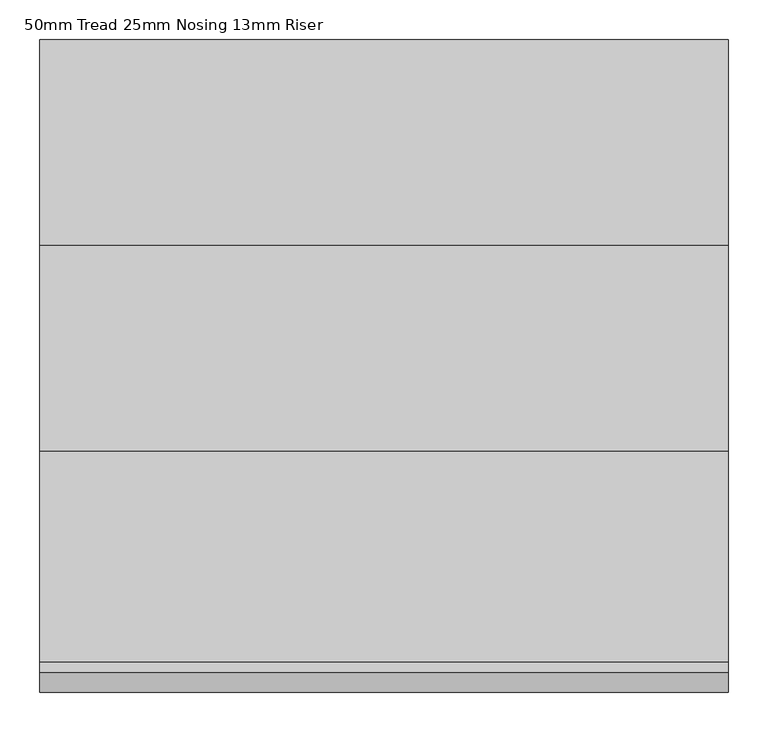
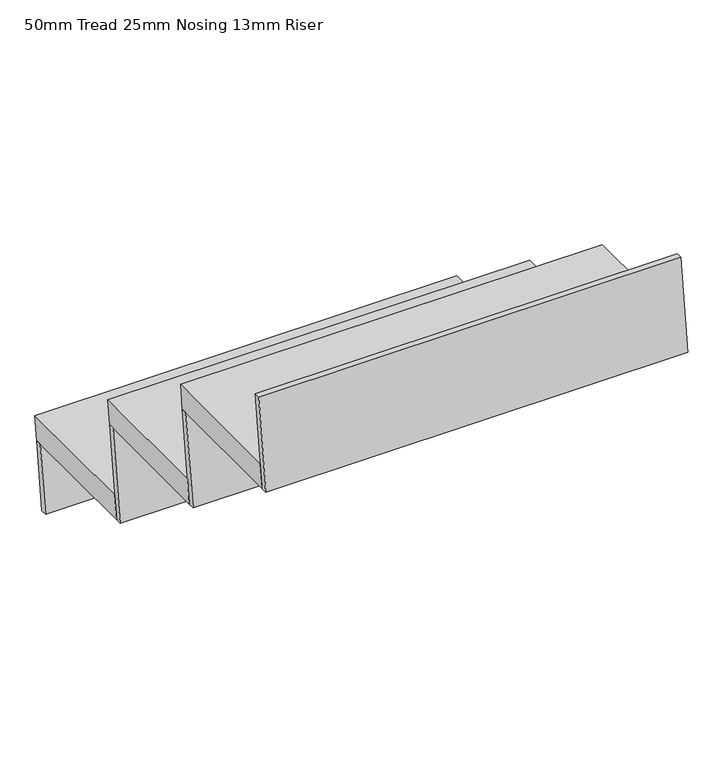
"""IFC4 building model written with IfcOpenShell, lengths in millimetres: stair flight geometry, 50mm Tread 25mm Nosing 13mm Riser."""

import ifcopenshell
import ifcopenshell.guid

model = None  # the IFC model being written
_history = None  # IfcOwnerHistory: only IFC2X3 demands one
_inside = {}  # id of a spatial element -> (the spatial element, [elements in it])
_under = {}  # id of a project, library or spatial element -> (it, [spatial elements below it])
_declared = {}  # id of a project -> (the project, [libraries it declares])
_typed = {}  # id of a type object -> (the type object, [elements of that type])
_made_of = {}  # id of a material, layer set ... -> (it, [elements and type objects made of it])


def new_model(schema):
    """Start an empty IFC model of exactly this schema.

    Asked for "IFC4X3", IfcOpenShell would pick the latest addendum, in which some entities
    have other attributes; the version numbers below select the first issue.
    IFC2X3 requires an IfcOwnerHistory on every rooted entity: one is made here for all.
    """
    global model, _history
    if schema == "IFC4X3":
        model = ifcopenshell.file(schema_version=(4, 3, 0, 0))
    else:
        model = ifcopenshell.file(schema=schema)
    _inside.clear()
    _under.clear()
    _declared.clear()
    _typed.clear()
    _made_of.clear()
    _history = None
    if model.schema == "IFC2X3":
        org = make("IfcOrganization", Name="unknown")
        user = make(
            "IfcPersonAndOrganization",
            ThePerson=make("IfcPerson", FamilyName="unknown"),
            TheOrganization=org,
        )
        app = make(
            "IfcApplication",
            ApplicationDeveloper=org,
            Version="unknown",
            ApplicationFullName="unknown",
            ApplicationIdentifier="unknown",
        )
        _history = make(
            "IfcOwnerHistory",
            OwningUser=user,
            OwningApplication=app,
            ChangeAction="ADDED",
            CreationDate=0,
        )
    return model


def make(cls, **values):
    """One entity of the class cls with the attributes given. An attribute that is None is left unset."""
    return model.create_entity(
        cls, **{name: value for name, value in values.items() if value is not None}
    )


def rooted(cls, **values):
    """An entity with a GlobalId (a new one), such as an element, a storey or a relation."""
    return make(cls, GlobalId=ifcopenshell.guid.new(), OwnerHistory=_history, **values)


def si_unit(unit_type, name, prefix=None):
    """IfcSIUnit, for example si_unit("LENGTHUNIT", "METRE", prefix="MILLI")."""
    return make("IfcSIUnit", UnitType=unit_type, Prefix=prefix, Name=name)


def assignment(units):
    """IfcUnitAssignment: the units of a project."""
    return None if units is None else make("IfcUnitAssignment", Units=units)


def point(xyz):
    """IfcCartesianPoint."""
    return None if xyz is None else make("IfcCartesianPoint", Coordinates=xyz)


def direction(xyz):
    """IfcDirection."""
    return None if xyz is None else make("IfcDirection", DirectionRatios=xyz)


def frame(location, z_axis=None, x_axis=None):
    """IfcAxis2Placement3D, a coordinate frame: its origin and axes. An axis left out is left unset."""
    return make(
        "IfcAxis2Placement3D",
        Location=point(location),
        Axis=direction(z_axis),
        RefDirection=direction(x_axis),
    )


def origin():
    """The frame at (0, 0, 0) with its axes left unset."""
    return frame((0.0, 0.0, 0.0))


def place(relative_to, where):
    """IfcLocalPlacement: puts the frame where relative to a parent placement (None: the world)."""
    return make(
        "IfcLocalPlacement", PlacementRelTo=relative_to, RelativePlacement=where
    )


def context(
    kind, dimensions, precision=None, world=None, true_north=None, identifier=None
):
    """IfcGeometricRepresentationContext, for example the 3D "Model" context."""
    return make(
        "IfcGeometricRepresentationContext",
        ContextIdentifier=identifier,
        ContextType=kind,
        CoordinateSpaceDimension=dimensions,
        Precision=precision,
        WorldCoordinateSystem=world,
        TrueNorth=true_north,
    )


def project(units=None, contexts=None):
    """IfcProject with its units and contexts."""
    return rooted(
        "IfcProject",
        Name="project",
        RepresentationContexts=contexts,
        UnitsInContext=assignment(units),
    )


def spatial(cls, under=None, at=None, **own):
    """A site, building, storey or space (cls), placed at a placement, below another one or the project."""
    s = rooted(cls, ObjectPlacement=at, **own)
    if under is not None:
        _under.setdefault(under.id(), (under, []))[1].append(s)
    return s


def polyline(points):
    """IfcPolyline through the points."""
    return make("IfcPolyline", Points=[point(p) for p in points])


def outline(outer, holes=None, kind="AREA"):
    """IfcArbitraryClosedProfileDef: a profile drawn as a closed curve; with holes, ...WithVoids."""
    if holes is None:
        return make("IfcArbitraryClosedProfileDef", ProfileType=kind, OuterCurve=outer)
    return make(
        "IfcArbitraryProfileDefWithVoids",
        ProfileType=kind,
        OuterCurve=outer,
        InnerCurves=holes,
    )


def extrude(swept, where, along, depth):
    """IfcExtrudedAreaSolid: the profile swept, set in the frame where, extruded along a direction by depth."""
    return make(
        "IfcExtrudedAreaSolid",
        SweptArea=swept,
        Position=where,
        ExtrudedDirection=direction(along),
        Depth=depth,
    )


def shape(context_of_items, identifier, shape_type, items):
    """IfcShapeRepresentation: the items that make up one representation, for example the "Body"."""
    return make(
        "IfcShapeRepresentation",
        ContextOfItems=context_of_items,
        RepresentationIdentifier=identifier,
        RepresentationType=shape_type,
        Items=items,
    )


def source(mapping_origin, context_of_items, identifier, shape_type, items):
    """IfcRepresentationMap: a shape defined once, which mapped items show again and again."""
    return make(
        "IfcRepresentationMap",
        MappingOrigin=mapping_origin,
        MappedRepresentation=shape(context_of_items, identifier, shape_type, items),
    )


def transform(
    local_origin,
    x_axis=None,
    y_axis=None,
    z_axis=None,
    scale=None,
    scale2=None,
    scale3=None,
    uniform=True,
):
    """IfcCartesianTransformationOperator3D, or its non-uniform kind. x_axis, y_axis, z_axis: its Axis1, 2, 3."""
    if uniform:
        return make(
            "IfcCartesianTransformationOperator3D",
            Axis1=direction(x_axis),
            Axis2=direction(y_axis),
            LocalOrigin=point(local_origin),
            Scale=scale,
            Axis3=direction(z_axis),
        )
    return make(
        "IfcCartesianTransformationOperator3DnonUniform",
        Axis1=direction(x_axis),
        Axis2=direction(y_axis),
        LocalOrigin=point(local_origin),
        Scale=scale,
        Axis3=direction(z_axis),
        Scale2=scale2,
        Scale3=scale3,
    )


def mapped(mapping_source, mapping_target):
    """IfcMappedItem: shows the shape of a source again, moved by a transform."""
    return make(
        "IfcMappedItem", MappingSource=mapping_source, MappingTarget=mapping_target
    )


def made_of(thing, what):
    """Note that an element or type object is made of a material, layer set ...; save() writes the relation."""
    if what is not None:
        _made_of.setdefault(what.id(), (what, []))[1].append(thing)
    return thing


def element(
    cls,
    number,
    at=None,
    inside=None,
    cuts=None,
    type_object=None,
    material=None,
    context=None,
    identifier="Body",
    shape_type=None,
    held_by="IfcProductDefinitionShape",
    body=None,
    shapes=None,
    **own,
):
    """One element of the class cls, such as IfcWall. Its Tag is "e" and its number.

    at: its placement. inside: the storey or other place that contains it. cuts: it is an
    opening in that element (IfcRelVoidsElement). A single representation is given by context,
    identifier, shape_type and body (its items); several are given by shapes. held_by: the class
    of the entity that holds the representations. save() writes the other relations.
    """
    e = rooted(cls, Tag="e%d" % number, ObjectPlacement=at, **own)
    if body is not None:
        shapes = [shape(context, identifier, shape_type, body)]
    if shapes is not None:
        e.Representation = make(held_by, Representations=shapes)
    if inside is not None:
        _inside.setdefault(inside.id(), (inside, []))[1].append(e)
    if cuts is not None:
        rooted(
            "IfcRelVoidsElement", RelatingBuildingElement=cuts, RelatedOpeningElement=e
        )
    if type_object is not None:
        _typed.setdefault(type_object.id(), (type_object, []))[1].append(e)
    return made_of(e, material)


def aggregate(whole, parts):
    """IfcRelAggregates: a whole, such as a stair, and the parts it consists of."""
    return rooted("IfcRelAggregates", RelatingObject=whole, RelatedObjects=parts)


def save(model, path):
    """Write the relations noted so far, then the file.

    IfcRelAggregates (storeys below a building ...), IfcRelContainedInSpatialStructure (elements
    in a storey), IfcRelDefinesByType, IfcRelAssociatesMaterial and IfcRelDeclares: one each for
    every whole, place, type object, material and project.
    """
    for whole, parts in _under.values():
        aggregate(whole, parts)
    for where, things in _inside.values():
        rooted(
            "IfcRelContainedInSpatialStructure",
            RelatedElements=things,
            RelatingStructure=where,
        )
    for kind, things in _typed.values():
        rooted("IfcRelDefinesByType", RelatedObjects=things, RelatingType=kind)
    for what, things in _made_of.values():
        rooted("IfcRelAssociatesMaterial", RelatedObjects=things, RelatingMaterial=what)
    for by, libraries in _declared.values():
        rooted("IfcRelDeclares", RelatingContext=by, RelatedDefinitions=libraries)
    model.write(path)


def stair_flight_50mm_tread_25mm_nosing_13mm_riser_6de5a301(model_context):
    return source(origin(), model_context, "Body", "SweptSolid", [
        extrude(outline(polyline([(3348.9640828, 2933.7), (3632.2, 2933.7), (3625.6383202, 2883.7), (3342.4024031, 2883.7), (3348.9640828, 2933.7)])), frame((-5251.45, 0.0, 0.0), z_axis=(1.0, 0.0, 0.0), x_axis=(0.0, 1.0, 0.0)), (0.0, 0.0, 1.0), 863.6),
        extrude(outline(polyline([(3625.6383202, 2883.7), (3607.2, 2743.2), (3594.5928204, 2743.2), (3613.0311406, 2883.7), (3625.6383202, 2883.7)])), frame((-5251.45, 0.0, 0.0), z_axis=(1.0, 0.0, 0.0), x_axis=(0.0, 1.0, 0.0)), (0.0, 0.0, 1.0), 863.6),
        extrude(outline(polyline([(3367.4024031, 3074.2), (3342.4024031, 2883.7), (3329.7952234, 2883.7), (3354.7952234, 3074.2), (3367.4024031, 3074.2)])), frame((-5251.45, 0.0, 0.0), z_axis=(1.0, 0.0, 0.0), x_axis=(0.0, 1.0, 0.0)), (0.0, 0.0, 1.0), 863.6),
        extrude(outline(polyline([(3090.7281657, 3124.2), (3373.9640828, 3124.2), (3367.4024031, 3074.2), (3084.1664859, 3074.2), (3090.7281657, 3124.2)])), frame((-5251.45, 0.0, 0.0), z_axis=(1.0, 0.0, 0.0), x_axis=(0.0, 1.0, 0.0)), (0.0, 0.0, 1.0), 863.6),
        extrude(outline(polyline([(3109.1664859, 3264.7), (3084.1664859, 3074.2), (3071.5593063, 3074.2), (3096.5593063, 3264.7), (3109.1664859, 3264.7)])), frame((-5251.45, 0.0, 0.0), z_axis=(1.0, 0.0, 0.0), x_axis=(0.0, 1.0, 0.0)), (0.0, 0.0, 1.0), 863.6),
        extrude(outline(polyline([(2850.9305687, 3455.2), (2825.9305687, 3264.7), (2813.3233891, 3264.7), (2838.3233891, 3455.2), (2850.9305687, 3455.2)])), frame((-5251.45, 0.0, 0.0), z_axis=(1.0, 0.0, 0.0), x_axis=(0.0, 1.0, 0.0)), (0.0, 0.0, 1.0), 863.6),
        extrude(outline(polyline([(2832.4922485, 3314.7), (3115.7281657, 3314.7), (3109.1664859, 3264.7), (2825.9305687, 3264.7), (2832.4922485, 3314.7)])), frame((-5251.45, 0.0, 0.0), z_axis=(1.0, 0.0, 0.0), x_axis=(0.0, 1.0, 0.0)), (0.0, 0.0, 1.0), 863.6),
    ])


if __name__ == "__main__":
    model = new_model("IFC4")
    model_context = context("Model", 3, world=origin())
    ifc_project = project(units=[si_unit("LENGTHUNIT", "METRE", prefix="MILLI")], contexts=[model_context])
    site = spatial("IfcSite", under=ifc_project)
    building = spatial("IfcBuilding", under=site)
    placement = place(None, origin())
    stair_flight_50mm_tread_25mm_nosing_13mm_riser_shape = stair_flight_50mm_tread_25mm_nosing_13mm_riser_6de5a301(model_context)
    element("IfcStairFlight", 1, ObjectType="50mm Tread 25mm Nosing 13mm Riser", at=placement, inside=building, context=model_context, shape_type="MappedRepresentation", body=[
        mapped(stair_flight_50mm_tread_25mm_nosing_13mm_riser_shape, transform((0.0, 0.0, 0.0), x_axis=(1.0, 0.0, 0.0), y_axis=(0.0, 1.0, 0.0), z_axis=(0.0, 0.0, 1.0))),
    ])
    save(model, "model.ifc")
